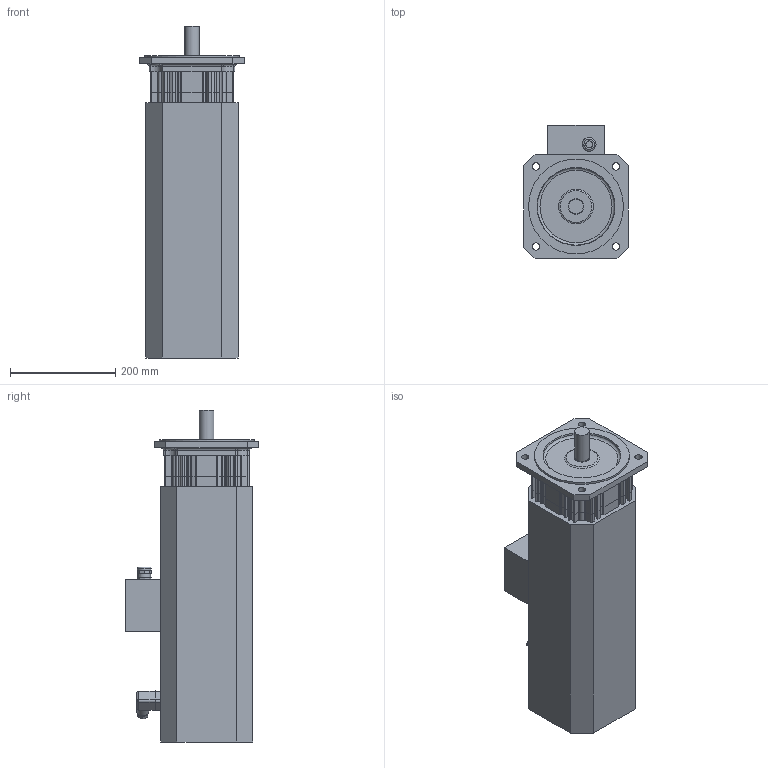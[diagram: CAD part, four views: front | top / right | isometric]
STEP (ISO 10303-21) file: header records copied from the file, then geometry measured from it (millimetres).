
FILE_DESCRIPTION(/* description */ (''),/* implementation_level */ '2;1');
FILE_NAME(/* name */ 'KSA8220_MC_FS',/* time_stamp */ '2009-03-02T10:14:17+01:00',/* author */ (''),/* organization */ (''),/* preprocessor_version */ 'ST-DEVELOPER v8',/* originating_system */ 'UNIGRAPHICS SOLUTIONS - UNIGRAPHICS 18.0',/* authorisation */ '');
FILE_SCHEMA (('AUTOMOTIVE_DESIGN { 1 2 10303 214 0 1 1 1 }'));
Length unit declared in the file: millimetre
Products named in the file (7): 0280391600_0; 014146_0; 014145_0; Lagersch_8AS_0; 089107X_0; SK3958_0; KSA8412_MC_FS_0
Assembly tree (6 placements, depth 3):
  KSA8412_MC_FS_0
    089107X_0
    Lagersch_8AS_0
    SK3958_0
      0280391600_0
    014145_0
    014146_0
Bounding box: 198 x 253.35 x 630 mm (x, y, z)
Volume: 15950321.8 mm3; surface area: 685588.9 mm2
Topology: 7 solids, 7 shells, 626 faces, 1728 edges, 1132 vertices
Faces by surface type: cylinder 313, plane 281, torus 16, cone 8, bspline 4, sphere 4
Full cylindrical faces by diameter (mm): 3.2 x1, 3.5 x4, 4.5 x1, 5 x1, 6.5 x4, 10 x1, 13 x2, 14 x4, 17 x1, 20 x2, 22.5 x1, 24 x1, 26 x1, 28 x1, 30 x1, 149.6 x2, 151 x1, 180 x1
Entity records: 20149 total; most frequent: DIRECTION 3598, CARTESIAN_POINT 3560, ORIENTED_EDGE 3352, EDGE_CURVE 1676, AXIS2_PLACEMENT_3D 1309, VERTEX_POINT 1122, LINE 980, VECTOR 980
